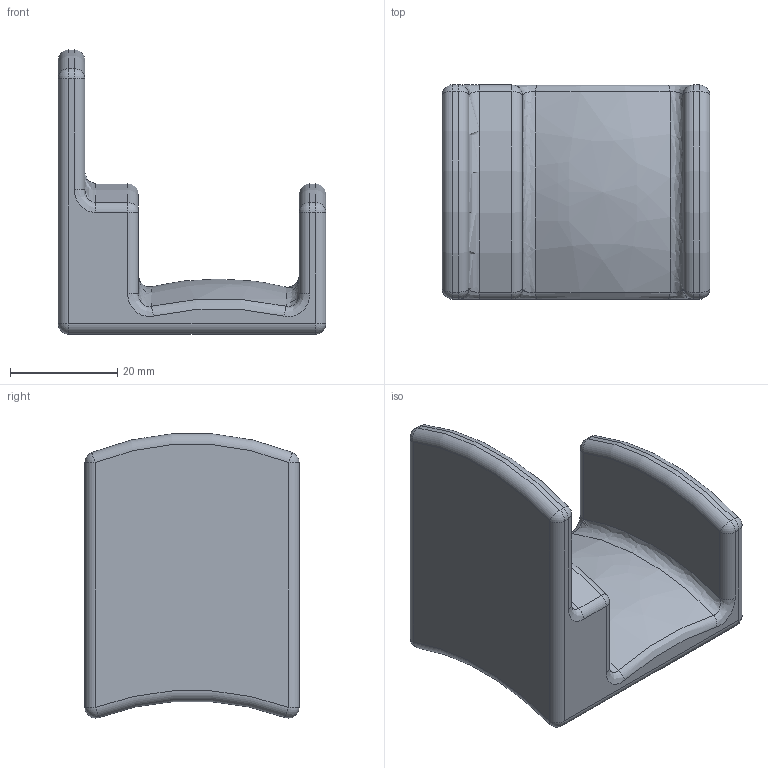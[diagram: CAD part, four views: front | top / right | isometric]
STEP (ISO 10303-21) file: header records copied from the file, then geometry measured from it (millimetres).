
FILE_DESCRIPTION(/* description */ (''),/* implementation_level */ '2;1');
FILE_NAME(/* name */ '/Users/jep/Downloads/Beats_Headphone_Hanger v1.step',/* time_stamp */ '2020-08-23T17:44:48-07:00',/* author */ (''),/* organization */ (''),/* preprocessor_version */ 'ST-DEVELOPER v18.1',/* originating_system */ 'Autodesk Translation Framework v9.3.0.1241',/* authorisation */ '');
FILE_SCHEMA (('AUTOMOTIVE_DESIGN { 1 0 10303 214 3 1 1 }'));
Length unit declared in the file: millimetre
Products named in the file (1): v01
Bounding box: 50 x 40 x 53.07 mm (x, y, z)
Volume: 32100.5 mm3; surface area: 10525.4 mm2
Topology: 1 solids, 1 shells, 74 faces, 152 edges, 82 vertices
Faces by surface type: cylinder 27, sphere 14, plane 12, bspline 11, torus 10
Full cylindrical faces by diameter (mm): 8 x1
Entity records: 2256 total; most frequent: CARTESIAN_POINT 695, DIRECTION 340, ORIENTED_EDGE 304, EDGE_CURVE 152, AXIS2_PLACEMENT_3D 145, VERTEX_POINT 82, CIRCLE 79, EDGE_LOOP 76
